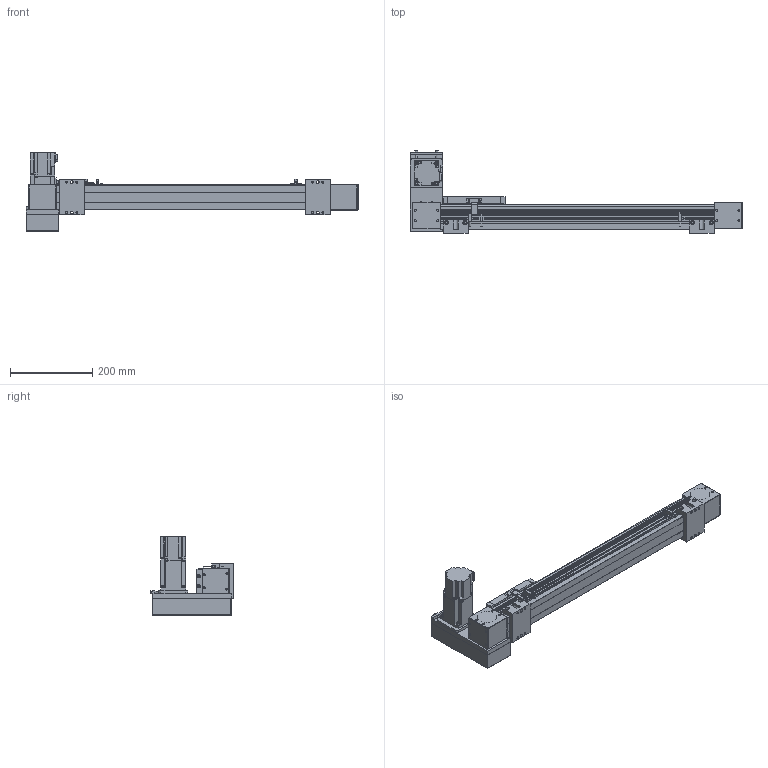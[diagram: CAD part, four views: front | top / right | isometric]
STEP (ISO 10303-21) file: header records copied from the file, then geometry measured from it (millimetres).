
FILE_DESCRIPTION(/* description */ ('STEP AP214'),/* implementation_level */ '2;1');
FILE_NAME(/* name */ 'SK60-P13-S500-LU-T40-C1-N(0)',/* time_stamp */ '2023-04-06T04:47:15+02:00',/* author */ ('License CC BY-ND 4.0'),/* organization */ ('CADENAS'),/* preprocessor_version */ 'ST-DEVELOPER v19.3',/* originating_system */ 'PARTsolutions',/* authorisation */ ' ');
FILE_SCHEMA (('AUTOMOTIVE_DESIGN { 1 0 10303 214 3 1 1 }','AUTOMOTIVE_DESIGN {1 0 10303 214 3 1 1}'));
Length unit declared in the file: millimetre
Products named in the file (10): SK60-P13-S500-LU-T40-C1-N(0); PSC140-sensor; SK60-S450_seat; SK60-S450-BL-C1_slider; SK60_body3; SK60_body6; SK60-BL_body2; T40-p1; SK60-LU_fb; SK60-S500-LU-C1_body
Assembly tree (16 placements, depth 2):
  SK60-P13-S500-LU-T40-C1-N(0)
    PSC140-sensor  x3
    SK60-S450_seat  x2
    SK60-S450-BL-C1_slider
    SK60_body3  x3
    SK60_body6  x2
    SK60-BL_body2  x2
    T40-p1
    SK60-LU_fb
    SK60-S500-LU-C1_body
Bounding box: 805.5 x 201 x 189.7 mm (x, y, z)
Volume: 3968606.3 mm3; surface area: 531604.7 mm2
Topology: 16 solids, 16 shells, 810 faces, 2048 edges, 1349 vertices
Faces by surface type: plane 524, cylinder 262, cone 22, torus 2
Full cylindrical faces by diameter (mm): 2.8 x3, 3.3 x4, 4 x2, 4.5 x30, 4.6 x3, 4.917 x16, 5 x6, 5.478 x4, 5.5 x19, 6.5 x4, 7 x2, 8 x4, 8.5 x4, 9.988 x4, 10 x8, 14 x1, 47 x3, 50 x2
Entity records: 18655 total; most frequent: DIRECTION 3184, CARTESIAN_POINT 3150, ORIENTED_EDGE 2940, EDGE_CURVE 1470, AXIS2_PLACEMENT_3D 1068, LINE 1048, VECTOR 1048, VERTEX_POINT 1034
